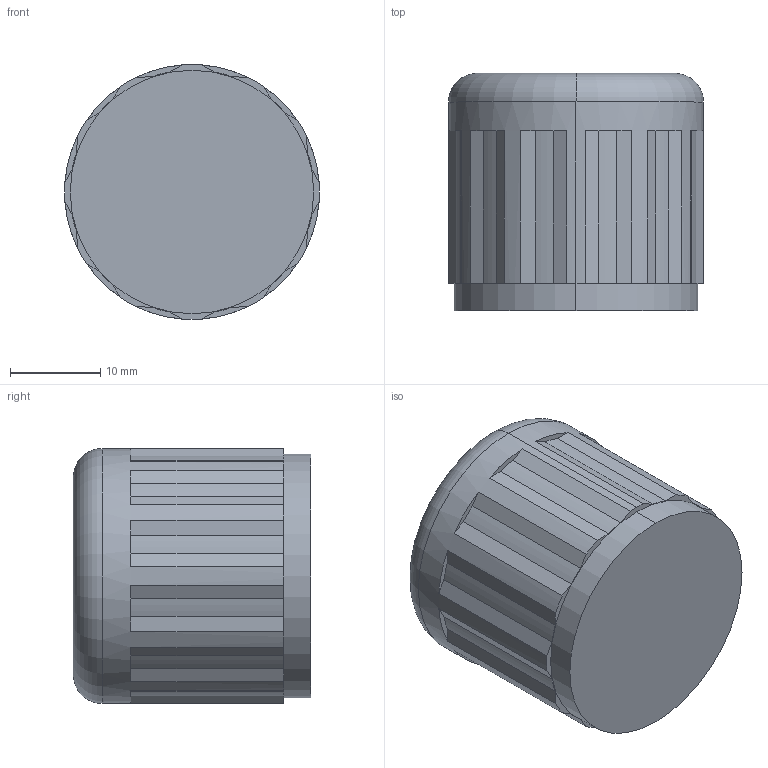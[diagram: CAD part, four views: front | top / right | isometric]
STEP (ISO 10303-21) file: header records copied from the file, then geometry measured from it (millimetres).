
FILE_DESCRIPTION (( 'STEP AP214' ), '1' );
FILE_NAME ('R07-100-RNEA_PART3.step', '2025-12-23T15:58:20', ( '' ), ( '' ), 'SwSTEP 2.0', 'SolidWorks 2026', '' );
FILE_SCHEMA (( 'AUTOMOTIVE_DESIGN' ));
Length unit declared in the file: inch
Products named in the file (1): R07-100-RNEA_PART3
Bounding box: 28.19 x 26.24 x 28.19 mm (x, y, z)
Volume: 15465.3 mm3; surface area: 3527.2 mm2
Topology: 1 solids, 1 shells, 95 faces, 256 edges, 170 vertices
Faces by surface type: plane 60, cylinder 33, torus 2
Entity records: 3035 total; most frequent: DIRECTION 542, CARTESIAN_POINT 522, ORIENTED_EDGE 512, EDGE_CURVE 256, AXIS2_PLACEMENT_3D 190, VERTEX_POINT 170, VECTOR 162, LINE 162
